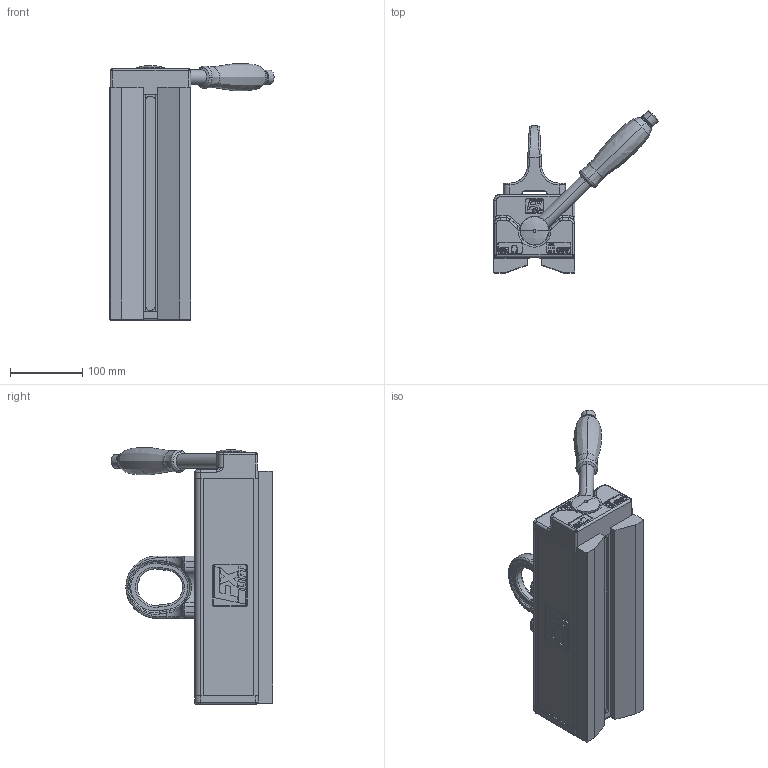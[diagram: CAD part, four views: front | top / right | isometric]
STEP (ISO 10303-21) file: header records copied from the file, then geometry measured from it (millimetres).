
FILE_DESCRIPTION (( 'STEP AP203' ), '1' );
FILE_NAME ('FX P 650 Vertrieb.STEP', '2016-09-22T06:32:37', ( '' ), ( '' ), 'SwSTEP 2.0', 'SolidWorks 2013', '' );
FILE_SCHEMA (( 'CONFIG_CONTROL_DESIGN' ));
Products named in the file (1): FX P 650 Vertrieb
Bounding box: 226.79 x 223.58 x 354.95 mm (x, y, z)
Surface area: 268968.9 mm2 (no closed solid volume)
Topology: 0 solids, 2 shells, 1325 faces, 3414 edges, 1972 vertices
Faces by surface type: bspline 478, plane 435, cylinder 356, cone 36, torus 16, sphere 4
Entity records: 62658 total; most frequent: CARTESIAN_POINT 35825, ORIENTED_EDGE 6465, DIRECTION 4192, EDGE_CURVE 3239, VERTEX_POINT 1972, VECTOR 1442, LINE 1442, EDGE_LOOP 1392
